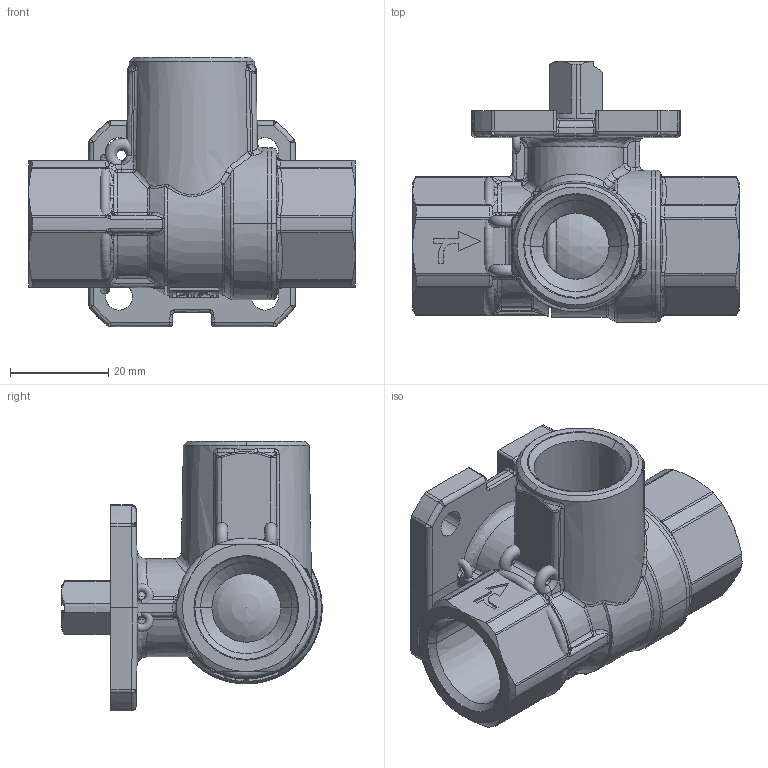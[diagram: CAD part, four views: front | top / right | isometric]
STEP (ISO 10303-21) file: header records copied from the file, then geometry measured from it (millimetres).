
FILE_DESCRIPTION((''),'2;1');
FILE_NAME('H980T1015_1369_ASM','2010-04-12T',('62marco'),(''),'PRO/ENGINEER BY PARAMETRIC TECHNOLOGY CORPORATION, 2008170','PRO/ENGINEER BY PARAMETRIC TECHNOLOGY CORPORATION, 2008170','');
FILE_SCHEMA(('CONFIG_CONTROL_DESIGN'));
Products named in the file (7): CC980T015_1219; CXP980015_92; CXKBT1015_1163; CXH98M015_155; CINBS0015_155; CM98GF015_1176; H980T1015_1369_ASM
Assembly tree (7 placements, depth 2):
  H980T1015_1369_ASM
    CC980T015_1219
    CXP980015_92
    CXKBT1015_1163
    CXH98M015_155  x2
    CINBS0015_155
    CM98GF015_1176
Bounding box: 66.6 x 53.1 x 55 mm (x, y, z)
Surface area: 43111.2 mm2 (no closed solid volume)
Topology: 0 solids, 0 shells, 1255 faces, 6378 edges, 6313 vertices
Faces by surface type: bspline 1131, torus 85, sphere 39
Entity records: 107083 total; most frequent: CARTESIAN_POINT 53068, DIRECTION 8204, TRIMMED_CURVE 7122, VECTOR 6312, LINE 6312, DEFINITIONAL_REPRESENTATION 6152, PCURVE 6152, COMPOSITE_CURVE_SEGMENT 6152
